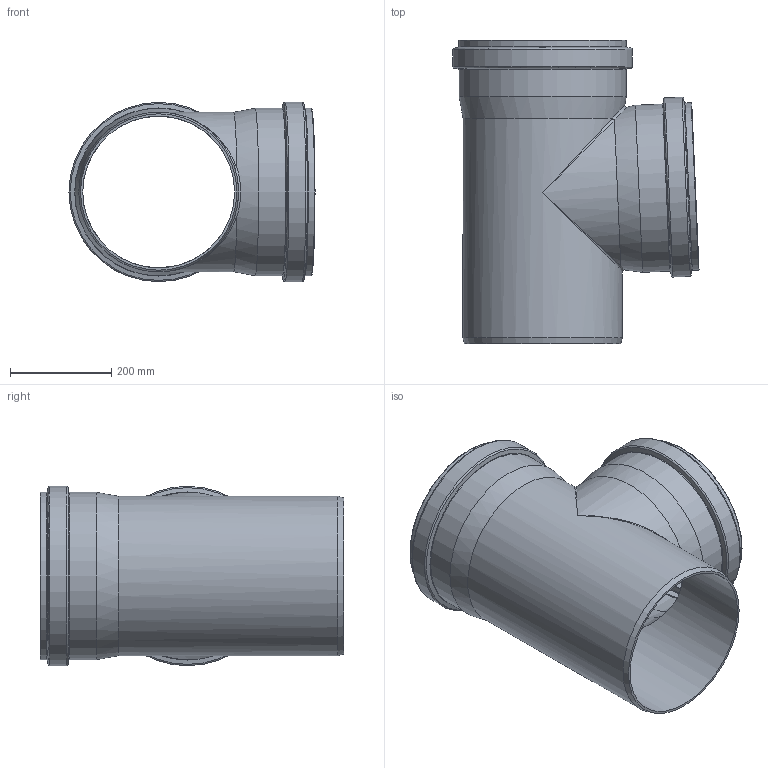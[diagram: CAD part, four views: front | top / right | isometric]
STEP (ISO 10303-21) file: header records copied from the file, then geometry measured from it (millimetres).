
FILE_DESCRIPTION(/* description */ (''),/* implementation_level */ '2;1');
FILE_NAME(/* name */ '225400z.stp',/* time_stamp */ '2025-10-01T11:33:17+02:00',/* author */ ('corinna'),/* organization */ (''),/* preprocessor_version */ 'ST-DEVELOPER v20',/* originating_system */ 'Autodesk Inventor 2024',/* authorisation */ '');
FILE_SCHEMA (('AUTOMOTIVE_DESIGN { 1 0 10303 214 3 1 1 }'));
Length unit declared in the file: millimetre
Products named in the file (1): 225400z
Bounding box: 485.94 x 599.9 x 354.3 mm (x, y, z)
Volume: 5407673.8 mm3; surface area: 1494553.2 mm2
Topology: 1 solids, 1 shells, 63 faces, 177 edges, 113 vertices
Faces by surface type: torus 20, cylinder 19, cone 13, bspline 6, plane 5
Full cylindrical faces by diameter (mm): 299.9 x1, 315.3 x1, 316.5 x2, 317.4 x4, 330.3 x2, 331.2 x2, 340.5 x2, 354.3 x2
Entity records: 2655 total; most frequent: CARTESIAN_POINT 934, DIRECTION 395, ORIENTED_EDGE 346, AXIS2_PLACEMENT_3D 183, EDGE_CURVE 173, CIRCLE 113, VERTEX_POINT 113, EDGE_LOOP 68
